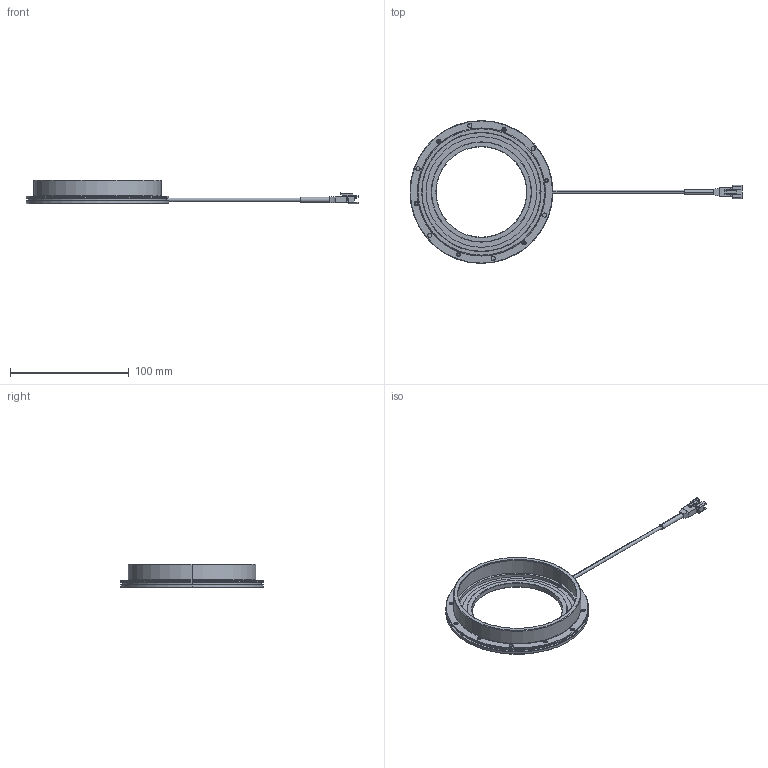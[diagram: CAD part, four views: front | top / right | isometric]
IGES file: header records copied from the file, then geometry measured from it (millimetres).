
Start section: 3D InterOp IGES (v. 2019 1.0.2), Spatial Corp. Copyright (c) 1999-2017.
Global section: file name: VLR-12076_DRAWING_3D.iges; native system: Spatial Corp.; preprocessor: 3D InterOp ACIS/IGES; author: Noname; organization: Noname; date: 20230913.203144; units: millimetre
Bounding box: 279 x 120 x 20.1 mm (x, y, z)
Surface area: 37744.9 mm2 (no closed solid volume)
Topology: 0 solids, 0 shells, 426 faces, 2044 edges, 2043 vertices
Faces by surface type: extrusion 218, revolution 203, bspline 5
